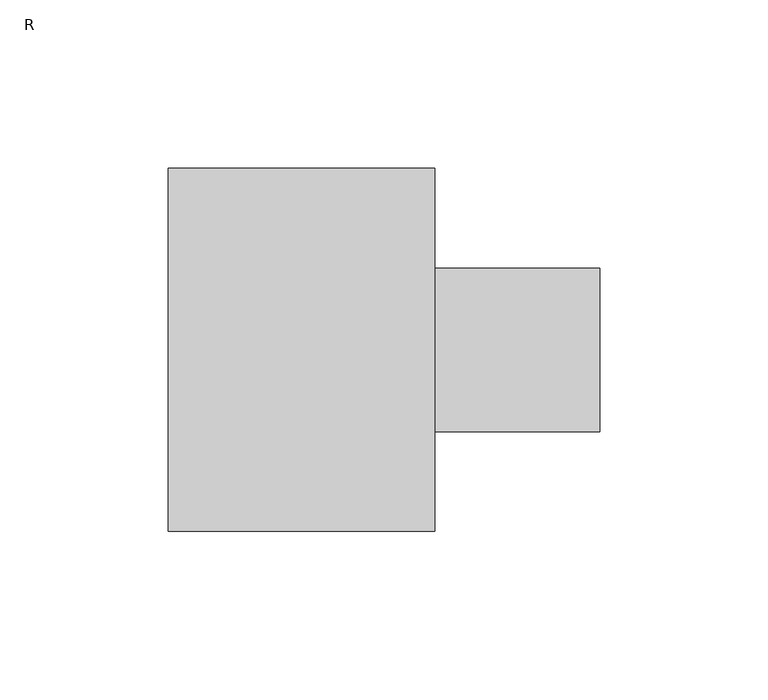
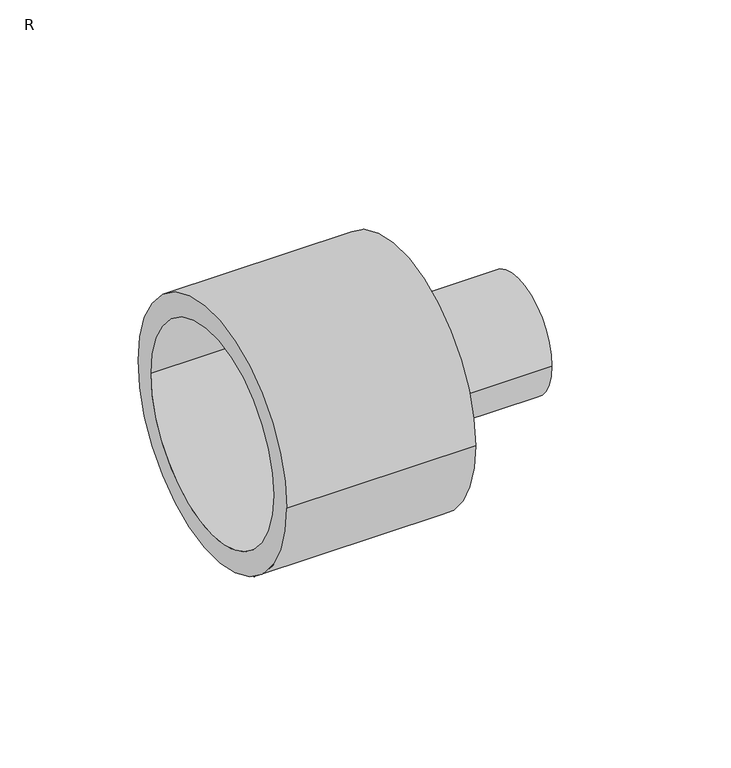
"""IFC4 building model written with IfcOpenShell, lengths in millimetres: pipe fitting geometry, FUSAPEX reducer : R."""

from ifc_helpers import new_model, si_unit, frame, origin, place, context, project, spatial, polyline, circle_curve, source, transform, mapped, element, save
from ifc_brep_helpers import plane_surface, cylinder_surface, revolved_surface, advanced_brep


def r_bfb9c921(model_context):
    return source(origin(), model_context, "Body", "AdvancedBrep", [
        advanced_brep(
        [(-79.0, 44.4, 0.0), (-79.0, -44.4, 0.0), (-13.0, -44.4, 0.0), (-13.0, 44.4, 0.0), (0.0, 53.85, 0.0), (0.0, -53.85, 0.0), (-79.0, -53.85, 0.0), (-79.0, 53.85, 0.0), (49.0, 24.25, 0.0), (49.0, -24.25, 0.0), (0.0, -24.25, 0.0), (0.0, 24.25, 0.0), (-13.0, 20.0, 0.0), (-13.0, -20.0, 0.0), (49.0, -20.0, 0.0), (49.0, 20.0, 0.0)],
        [
            (0, 1, circle_curve(frame((-79.0, 0.0, 0.0), z_axis=(-1.0, 0.0, 0.0), x_axis=(0.0, -1.0, 0.0)), 44.4)),
            (1, 2),
            (2, 3, circle_curve(frame((-13.0, 0.0, 0.0), z_axis=(1.0, 0.0, 0.0), x_axis=(0.0, -1.0, 0.0)), 44.4)),
            (3, 0),
            (4, 5, circle_curve(frame((0.0, 0.0, 0.0), z_axis=(-1.0, 0.0, 0.0), x_axis=(0.0, -1.0, 0.0)), 53.85)),
            (5, 6),
            (6, 7, circle_curve(frame((-79.0, 0.0, 0.0), z_axis=(1.0, 0.0, 0.0), x_axis=(0.0, -1.0, 0.0)), 53.85)),
            (7, 4),
            (8, 9, circle_curve(frame((49.0, 0.0, 0.0), z_axis=(-1.0, 0.0, 0.0), x_axis=(0.0, -1.0, 0.0)), 24.25)),
            (9, 10),
            (10, 11, circle_curve(frame((0.0, 0.0, 0.0), z_axis=(1.0, 0.0, 0.0), x_axis=(0.0, -1.0, 0.0)), 24.25)),
            (11, 8),
            (12, 13, circle_curve(frame((-13.0, 0.0, 0.0), z_axis=(-1.0, 0.0, 0.0), x_axis=(0.0, -1.0, 0.0)), 20.0)),
            (13, 14),
            (14, 15, circle_curve(frame((49.0, 0.0, 0.0), z_axis=(1.0, 0.0, 0.0), x_axis=(0.0, -1.0, 0.0)), 20.0)),
            (15, 12),
            (1, 0, circle_curve(frame((-79.0, 0.0, 0.0), z_axis=(-1.0, 0.0, 0.0), x_axis=(0.0, 1.0, 0.0)), 44.4)),
            (3, 2, circle_curve(frame((-13.0, 0.0, 0.0), z_axis=(1.0, 0.0, 0.0), x_axis=(0.0, 1.0, 0.0)), 44.4)),
            (6, 7, circle_curve(frame((-79.0, 0.0, 0.0), z_axis=(-1.0, 0.0, 0.0), x_axis=(0.0, 1.0, 0.0)), 53.85)),
            (5, 4, circle_curve(frame((0.0, 0.0, 0.0), z_axis=(-1.0, 0.0, 0.0), x_axis=(0.0, 1.0, 0.0)), 53.85)),
            (10, 11, circle_curve(frame((0.0, 0.0, 0.0), z_axis=(-1.0, 0.0, 0.0), x_axis=(0.0, 1.0, 0.0)), 24.25)),
            (9, 8, circle_curve(frame((49.0, 0.0, 0.0), z_axis=(-1.0, 0.0, 0.0), x_axis=(0.0, 1.0, 0.0)), 24.25)),
            (14, 15, circle_curve(frame((49.0, 0.0, 0.0), z_axis=(-1.0, 0.0, 0.0), x_axis=(0.0, 1.0, 0.0)), 20.0)),
            (13, 12, circle_curve(frame((-13.0, 0.0, 0.0), z_axis=(-1.0, 0.0, 0.0), x_axis=(0.0, 1.0, 0.0)), 20.0)),
        ],
        [
            revolved_surface(polyline([(-13.0, -44.4, 0.0), (-79.0, -44.4, 0.0)]), (0.0, 0.0, 0.0), (1.0, 0.0, 0.0)),
            cylinder_surface(frame((0.0, 0.0, 0.0), z_axis=(1.0, 0.0, 0.0), x_axis=(0.0, -1.0, 0.0)), 53.85),
            cylinder_surface(frame((0.0, 0.0, 0.0), z_axis=(1.0, 0.0, 0.0), x_axis=(0.0, -1.0, 0.0)), 24.25),
            revolved_surface(polyline([(49.0, -20.0, 0.0), (-13.0, -20.0, 0.0)]), (0.0, 0.0, 0.0), (1.0, 0.0, 0.0)),
            revolved_surface(polyline([(-13.0, 44.4, 0.0), (-79.0, 44.4, 0.0)]), (0.0, 0.0, 0.0), (1.0, 0.0, 0.0)),
            plane_surface(frame((-79.0, 0.0, 0.0), z_axis=(-1.0, 0.0, 0.0), x_axis=(0.0, 1.0, 0.0))),
            cylinder_surface(frame((0.0, 0.0, 0.0), z_axis=(1.0, 0.0, 0.0), x_axis=(0.0, 1.0, 0.0)), 53.85),
            plane_surface(frame((0.0, 0.0, 0.0), z_axis=(1.0, 0.0, 0.0), x_axis=(0.0, 1.0, 0.0))),
            cylinder_surface(frame((0.0, 0.0, 0.0), z_axis=(1.0, 0.0, 0.0), x_axis=(0.0, 1.0, 0.0)), 24.25),
            plane_surface(frame((49.0, 0.0, 0.0), z_axis=(1.0, 0.0, 0.0), x_axis=(0.0, 1.0, 0.0))),
            revolved_surface(polyline([(49.0, 20.0, 0.0), (-13.0, 20.0, 0.0)]), (0.0, 0.0, 0.0), (1.0, 0.0, 0.0)),
            plane_surface(frame((-13.0, 0.0, 0.0), z_axis=(-1.0, 0.0, 0.0), x_axis=(0.0, 1.0, 0.0))),
        ],
        [
            (0, [[1, 2, 3, 4]]),
            (1, [[5, 6, 7, 8]]),
            (2, [[9, 10, 11, 12]]),
            (3, [[13, 14, 15, 16]]),
            (4, [[17, -4, 18, -2]]),
            (5, [[19, -7], [-17, -1]]),
            (6, [[20, -8, -19, -6]]),
            (7, [[-20, -5], [21, -11]]),
            (8, [[22, -12, -21, -10]]),
            (9, [[-22, -9], [23, -15]]),
            (10, [[24, -16, -23, -14]]),
            (11, [[-18, -3], [-24, -13]]),
        ],
    ),
    ])


if __name__ == "__main__":
    model = new_model("IFC4")
    model_context = context("Model", 3, world=origin())
    ifc_project = project(units=[si_unit("LENGTHUNIT", "METRE", prefix="MILLI")], contexts=[model_context])
    site = spatial("IfcSite", under=ifc_project)
    building = spatial("IfcBuilding", under=site)
    placement = place(None, origin())
    r_shape = r_bfb9c921(model_context)
    element("IfcPipeFitting", 1, ObjectType="FUSAPEX reducer : R", at=placement, inside=building, context=model_context, shape_type="MappedRepresentation", body=[
        mapped(r_shape, transform((0.0, 0.0, 0.0), x_axis=(1.0, 0.0, 0.0), y_axis=(0.0, 1.0, 0.0), z_axis=(0.0, 0.0, 1.0))),
    ])
    save(model, "model.ifc")
